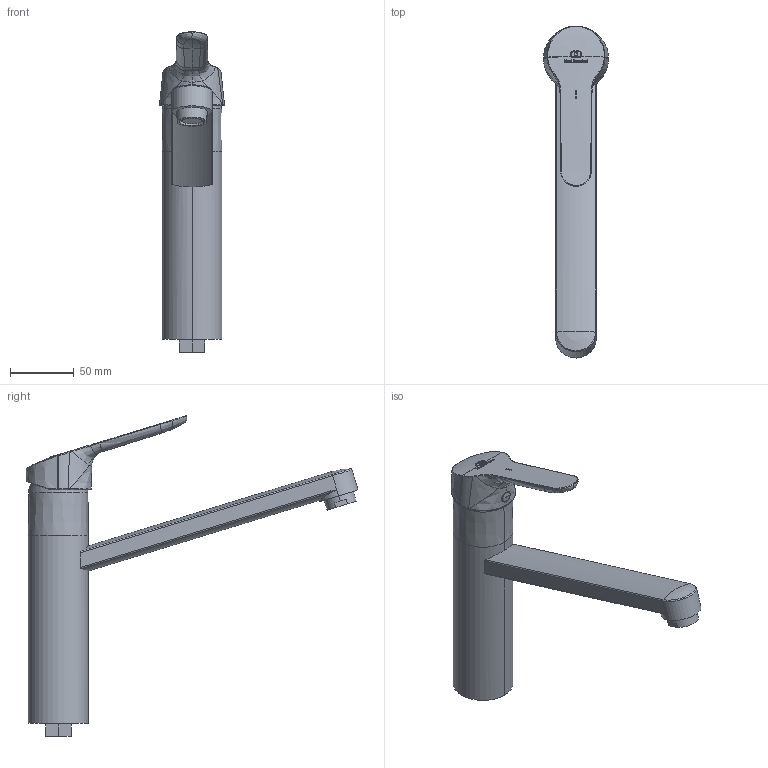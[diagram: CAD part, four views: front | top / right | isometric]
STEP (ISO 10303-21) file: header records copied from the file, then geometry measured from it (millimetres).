
FILE_DESCRIPTION((''),'2;1');
FILE_NAME('BC135AA_3DPL','2020-04-22T',('HristovG'),('AMERICAN STANDARD B&K'),'CREO PARAMETRIC BY PTC INC, 2016130','CREO PARAMETRIC BY PTC INC, 2016130','');
FILE_SCHEMA(('CONFIG_CONTROL_DESIGN'));
Length unit declared in the file: millimetre
Products named in the file (1): BC135AA_3DPL
Bounding box: 50.88 x 260.26 x 251.18 mm (x, y, z)
Volume: 499307.7 mm3; surface area: 61149.3 mm2
Topology: 1 solids, 4 shells, 285 faces, 707 edges, 447 vertices
Faces by surface type: bspline 145, plane 70, cylinder 52, cone 10, torus 3, sphere 3, extrusion 2
Entity records: 23376 total; most frequent: CARTESIAN_POINT 17541, ORIENTED_EDGE 1392, DIRECTION 832, EDGE_CURVE 702, VERTEX_POINT 447, EDGE_LOOP 310, VECTOR 286, B_SPLINE_CURVE_WITH_KNOTS 286
